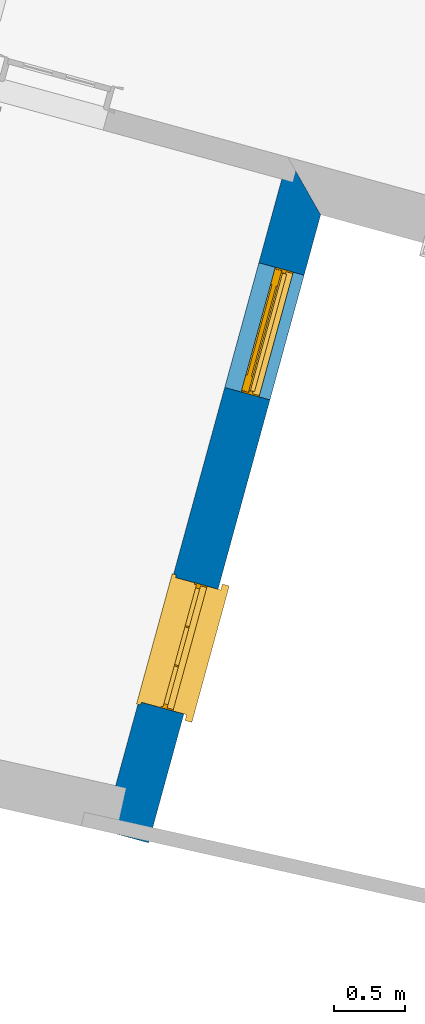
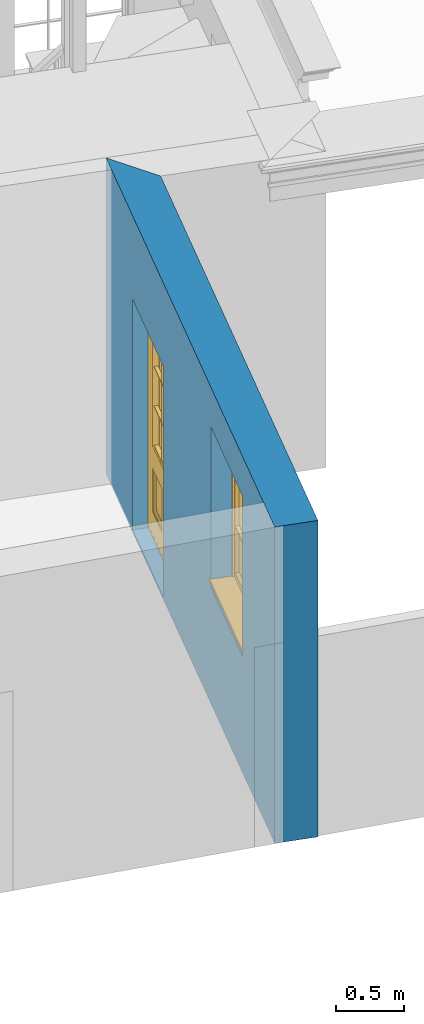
# One storey, part 2 of 7: 1 door, 1 wall, 1 window, 2 openings.
"""IFC4 building model written with IfcOpenShell, lengths in metres."""

import ifcopenshell
import ifcopenshell.guid

model = None  # the IFC model being written
_history = None  # IfcOwnerHistory: only IFC2X3 demands one
_inside = {}  # id of a spatial element -> (the spatial element, [elements in it])
_under = {}  # id of a project, library or spatial element -> (it, [spatial elements below it])
_declared = {}  # id of a project -> (the project, [libraries it declares])
_typed = {}  # id of a type object -> (the type object, [elements of that type])
_made_of = {}  # id of a material, layer set ... -> (it, [elements and type objects made of it])


def new_model(schema):
    """Start an empty IFC model of exactly this schema.

    Asked for "IFC4X3", IfcOpenShell would pick the latest addendum, in which some entities
    have other attributes; the version numbers below select the first issue.
    IFC2X3 requires an IfcOwnerHistory on every rooted entity: one is made here for all.
    """
    global model, _history
    if schema == "IFC4X3":
        model = ifcopenshell.file(schema_version=(4, 3, 0, 0))
    else:
        model = ifcopenshell.file(schema=schema)
    _inside.clear()
    _under.clear()
    _declared.clear()
    _typed.clear()
    _made_of.clear()
    _history = None
    if model.schema == "IFC2X3":
        org = make("IfcOrganization", Name="unknown")
        user = make(
            "IfcPersonAndOrganization",
            ThePerson=make("IfcPerson", FamilyName="unknown"),
            TheOrganization=org,
        )
        app = make(
            "IfcApplication",
            ApplicationDeveloper=org,
            Version="unknown",
            ApplicationFullName="unknown",
            ApplicationIdentifier="unknown",
        )
        _history = make(
            "IfcOwnerHistory",
            OwningUser=user,
            OwningApplication=app,
            ChangeAction="ADDED",
            CreationDate=0,
        )
    return model


def make(cls, **values):
    """One entity of the class cls with the attributes given. An attribute that is None is left unset."""
    return model.create_entity(
        cls, **{name: value for name, value in values.items() if value is not None}
    )


def rooted(cls, **values):
    """An entity with a GlobalId (a new one), such as an element, a storey or a relation."""
    return make(cls, GlobalId=ifcopenshell.guid.new(), OwnerHistory=_history, **values)


def si_unit(unit_type, name, prefix=None):
    """IfcSIUnit, for example si_unit("LENGTHUNIT", "METRE", prefix="MILLI")."""
    return make("IfcSIUnit", UnitType=unit_type, Prefix=prefix, Name=name)


def assignment(units):
    """IfcUnitAssignment: the units of a project."""
    return None if units is None else make("IfcUnitAssignment", Units=units)


def point(xyz):
    """IfcCartesianPoint."""
    return None if xyz is None else make("IfcCartesianPoint", Coordinates=xyz)


def direction(xyz):
    """IfcDirection."""
    return None if xyz is None else make("IfcDirection", DirectionRatios=xyz)


def frame(location, z_axis=None, x_axis=None):
    """IfcAxis2Placement3D, a coordinate frame: its origin and axes. An axis left out is left unset."""
    return make(
        "IfcAxis2Placement3D",
        Location=point(location),
        Axis=direction(z_axis),
        RefDirection=direction(x_axis),
    )


def origin():
    """The frame at (0, 0, 0) with its axes left unset."""
    return frame((0.0, 0.0, 0.0))


def origin_with_axes():
    """The frame at (0, 0, 0) with the z axis (0, 0, 1) and the x axis (1, 0, 0) written out."""
    return frame((0.0, 0.0, 0.0), z_axis=(0.0, 0.0, 1.0), x_axis=(1.0, 0.0, 0.0))


def place(relative_to, where):
    """IfcLocalPlacement: puts the frame where relative to a parent placement (None: the world)."""
    return make(
        "IfcLocalPlacement", PlacementRelTo=relative_to, RelativePlacement=where
    )


def context(
    kind, dimensions, precision=None, world=None, true_north=None, identifier=None
):
    """IfcGeometricRepresentationContext, for example the 3D "Model" context."""
    return make(
        "IfcGeometricRepresentationContext",
        ContextIdentifier=identifier,
        ContextType=kind,
        CoordinateSpaceDimension=dimensions,
        Precision=precision,
        WorldCoordinateSystem=world,
        TrueNorth=true_north,
    )


def subcontext(parent, identifier, kind, view, scale=None):
    """IfcGeometricRepresentationSubContext, for example "Body" below "Model"."""
    return make(
        "IfcGeometricRepresentationSubContext",
        ContextIdentifier=identifier,
        ContextType=kind,
        ParentContext=parent,
        TargetScale=scale,
        TargetView=view,
    )


def project(units=None, contexts=None):
    """IfcProject with its units and contexts."""
    return rooted(
        "IfcProject",
        Name="project",
        RepresentationContexts=contexts,
        UnitsInContext=assignment(units),
    )


def spatial(cls, under=None, at=None, **own):
    """A site, building, storey or space (cls), placed at a placement, below another one or the project."""
    s = rooted(cls, ObjectPlacement=at, **own)
    if under is not None:
        _under.setdefault(under.id(), (under, []))[1].append(s)
    return s


def polyline(points):
    """IfcPolyline through the points."""
    return make("IfcPolyline", Points=[point(p) for p in points])


def outline(outer, holes=None, kind="AREA"):
    """IfcArbitraryClosedProfileDef: a profile drawn as a closed curve; with holes, ...WithVoids."""
    if holes is None:
        return make("IfcArbitraryClosedProfileDef", ProfileType=kind, OuterCurve=outer)
    return make(
        "IfcArbitraryProfileDefWithVoids",
        ProfileType=kind,
        OuterCurve=outer,
        InnerCurves=holes,
    )


def extrude(swept, where, along, depth):
    """IfcExtrudedAreaSolid: the profile swept, set in the frame where, extruded along a direction by depth."""
    return make(
        "IfcExtrudedAreaSolid",
        SweptArea=swept,
        Position=where,
        ExtrudedDirection=direction(along),
        Depth=depth,
    )


def faces_of(points, faces, orient=None, outer=None):
    """IfcFace entities. A face is a list of loops; a loop is a list of indices into points, from 0.

    orient and outer hold one flag for each loop. By default every Orientation is true, the
    first loop of a face is its IfcFaceOuterBound and the others are IfcFaceBound.
    """
    made = []
    for i, loops in enumerate(faces):
        bounds = []
        for j, loop in enumerate(loops):
            is_outer = j == 0 if outer is None else outer[i][j]
            bounds.append(
                make(
                    "IfcFaceOuterBound" if is_outer else "IfcFaceBound",
                    Bound=make("IfcPolyLoop", Polygon=[points[k] for k in loop]),
                    Orientation=True if orient is None else orient[i][j],
                )
            )
        made.append(make("IfcFace", Bounds=bounds))
    return made


def faceted_brep(points, faces, orient=None, outer=None, voids=None):
    """IfcFacetedBrep: a solid bounded by flat faces; with voids (closed shells), ...WithVoids."""
    shared = [point(p) for p in points]
    hull = make("IfcClosedShell", CfsFaces=faces_of(shared, faces, orient, outer))
    if voids is None:
        return make("IfcFacetedBrep", Outer=hull)
    return make(
        "IfcFacetedBrepWithVoids",
        Outer=hull,
        Voids=[
            make(cls, CfsFaces=faces_of(shared, fs, o, b)) for cls, fs, o, b in voids
        ],
    )


def shape(context_of_items, identifier, shape_type, items):
    """IfcShapeRepresentation: the items that make up one representation, for example the "Body"."""
    return make(
        "IfcShapeRepresentation",
        ContextOfItems=context_of_items,
        RepresentationIdentifier=identifier,
        RepresentationType=shape_type,
        Items=items,
    )


def source(mapping_origin, context_of_items, identifier, shape_type, items):
    """IfcRepresentationMap: a shape defined once, which mapped items show again and again."""
    return make(
        "IfcRepresentationMap",
        MappingOrigin=mapping_origin,
        MappedRepresentation=shape(context_of_items, identifier, shape_type, items),
    )


def transform(
    local_origin,
    x_axis=None,
    y_axis=None,
    z_axis=None,
    scale=None,
    scale2=None,
    scale3=None,
    uniform=True,
):
    """IfcCartesianTransformationOperator3D, or its non-uniform kind. x_axis, y_axis, z_axis: its Axis1, 2, 3."""
    if uniform:
        return make(
            "IfcCartesianTransformationOperator3D",
            Axis1=direction(x_axis),
            Axis2=direction(y_axis),
            LocalOrigin=point(local_origin),
            Scale=scale,
            Axis3=direction(z_axis),
        )
    return make(
        "IfcCartesianTransformationOperator3DnonUniform",
        Axis1=direction(x_axis),
        Axis2=direction(y_axis),
        LocalOrigin=point(local_origin),
        Scale=scale,
        Axis3=direction(z_axis),
        Scale2=scale2,
        Scale3=scale3,
    )


def mapped(mapping_source, mapping_target):
    """IfcMappedItem: shows the shape of a source again, moved by a transform."""
    return make(
        "IfcMappedItem", MappingSource=mapping_source, MappingTarget=mapping_target
    )


def material(Name=None, Category=None):
    """IfcMaterial."""
    return make("IfcMaterial", Name=Name, Category=Category)


def layer(
    of_material, thickness, ventilated=None, Name=None, Category=None, Priority=None
):
    """IfcMaterialLayer: one layer of a wall or slab, of a material (None: an air gap)."""
    return make(
        "IfcMaterialLayer",
        Material=of_material,
        LayerThickness=thickness,
        IsVentilated=ventilated,
        Name=Name,
        Category=Category,
        Priority=Priority,
    )


def layer_set(layers, Name=None):
    """IfcMaterialLayerSet."""
    return make("IfcMaterialLayerSet", MaterialLayers=layers, LayerSetName=Name)


def layer_usage(for_layer_set, set_direction, sense, offset, extent=None):
    """IfcMaterialLayerSetUsage: how a layer set lies in its element."""
    return make(
        "IfcMaterialLayerSetUsage",
        ForLayerSet=for_layer_set,
        LayerSetDirection=set_direction,
        DirectionSense=sense,
        OffsetFromReferenceLine=offset,
        ReferenceExtent=extent,
    )


def made_of(thing, what):
    """Note that an element or type object is made of a material, layer set ...; save() writes the relation."""
    if what is not None:
        _made_of.setdefault(what.id(), (what, []))[1].append(thing)
    return thing


def type_object(cls, material=None, **own):
    """A type object (cls), such as IfcWallType, which elements share."""
    return made_of(rooted(cls, **own), material)


def type_shapes(of_type, sources):
    """Give a type object the sources (RepresentationMaps) that its elements show as mapped items."""
    of_type.RepresentationMaps = sources


def element(
    cls,
    number,
    at=None,
    inside=None,
    cuts=None,
    type_object=None,
    material=None,
    context=None,
    identifier="Body",
    shape_type=None,
    held_by="IfcProductDefinitionShape",
    body=None,
    shapes=None,
    **own,
):
    """One element of the class cls, such as IfcWall. Its Tag is "e" and its number.

    at: its placement. inside: the storey or other place that contains it. cuts: it is an
    opening in that element (IfcRelVoidsElement). A single representation is given by context,
    identifier, shape_type and body (its items); several are given by shapes. held_by: the class
    of the entity that holds the representations. save() writes the other relations.
    """
    e = rooted(cls, Tag="e%d" % number, ObjectPlacement=at, **own)
    if body is not None:
        shapes = [shape(context, identifier, shape_type, body)]
    if shapes is not None:
        e.Representation = make(held_by, Representations=shapes)
    if inside is not None:
        _inside.setdefault(inside.id(), (inside, []))[1].append(e)
    if cuts is not None:
        rooted(
            "IfcRelVoidsElement", RelatingBuildingElement=cuts, RelatedOpeningElement=e
        )
    if type_object is not None:
        _typed.setdefault(type_object.id(), (type_object, []))[1].append(e)
    return made_of(e, material)


def fill(opening, filler):
    """IfcRelFillsElement: the door or window that sits in an opening."""
    return rooted(
        "IfcRelFillsElement",
        RelatingOpeningElement=opening,
        RelatedBuildingElement=filler,
    )


def aggregate(whole, parts):
    """IfcRelAggregates: a whole, such as a stair, and the parts it consists of."""
    return rooted("IfcRelAggregates", RelatingObject=whole, RelatedObjects=parts)


def save(model, path):
    """Write the relations noted so far, then the file.

    IfcRelAggregates (storeys below a building ...), IfcRelContainedInSpatialStructure (elements
    in a storey), IfcRelDefinesByType, IfcRelAssociatesMaterial and IfcRelDeclares: one each for
    every whole, place, type object, material and project.
    """
    for whole, parts in _under.values():
        aggregate(whole, parts)
    for where, things in _inside.values():
        rooted(
            "IfcRelContainedInSpatialStructure",
            RelatedElements=things,
            RelatingStructure=where,
        )
    for kind, things in _typed.values():
        rooted("IfcRelDefinesByType", RelatedObjects=things, RelatingType=kind)
    for what, things in _made_of.values():
        rooted("IfcRelAssociatesMaterial", RelatedObjects=things, RelatingMaterial=what)
    for by, libraries in _declared.values():
        rooted("IfcRelDeclares", RelatingContext=by, RelatedDefinitions=libraries)
    model.write(path)


model = new_model("IFC4")

# Units and contexts
model_context = context("Model", 3, world=origin_with_axes())
body_context = subcontext(model_context, "Body", "Model", "MODEL_VIEW")
ifc_project = project(units=[si_unit("PLANEANGLEUNIT", "RADIAN"), si_unit("MASSUNIT", "GRAM", prefix="KILO"), si_unit("FORCEUNIT", "NEWTON", prefix="KILO"), si_unit("LENGTHUNIT", "METRE"), si_unit("AREAUNIT", "SQUARE_METRE"), si_unit("VOLUMEUNIT", "CUBIC_METRE")], contexts=[model_context, model_context])

# Sites, building, storey
site_1_placement = place(None, origin_with_axes())
site_1 = spatial("IfcSite", under=ifc_project, at=site_1_placement, Name="Tamar")
site_2_placement = place(site_1_placement, origin_with_axes())
site_2 = spatial("IfcSite", under=site_1, at=site_2_placement, Name="Site plot-29", CompositionType="ELEMENT")
building_placement = place(None, origin_with_axes())
building = spatial("IfcBuilding", under=site_2, at=building_placement, Name="Building plot-29", CompositionType="ELEMENT")
storey_placement = place(None, frame((0.0, 0.0, 25.0), z_axis=(0.0, 0.0, 1.0), x_axis=(1.0, 0.0, 0.0)))
storey = spatial("IfcBuildingStorey", under=building, at=storey_placement, Name="plot-29 0", CompositionType="ELEMENT", Elevation=25.0)

# Wall, openings, door, window
ifc_material = material(Name="Masonry")
ifc_layer = layer(ifc_material, 0.33, ventilated=False)
ifc_layer_set = layer_set([ifc_layer], Name="exterior_0.08_0.25")
ifc_layer_usage = layer_usage(ifc_layer_set, "AXIS2", "POSITIVE", -0.25)
wall_type = type_object("IfcWallType", Name="exterior_0.08_0.25", PredefinedType="SOLIDWALL", material=ifc_layer_set)
wall_placement = place(storey_placement, frame((274.630680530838, 257.489366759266, 0.0), z_axis=(0.0, 0.0, 1.0), x_axis=(0.264255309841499, 0.964452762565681, 0.0)))
wall = element("IfcWall", 1, at=wall_placement, inside=storey, type_object=wall_type, material=ifc_layer_usage, Name="exterior", context=body_context, shape_type="SweptSolid", body=[
    extrude(outline(polyline([(-0.250000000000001, 0.0800000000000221), (-0.250000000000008, -0.250000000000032), (4.33079801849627, -0.250000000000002), (4.66079801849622, 0.0800000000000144), (-0.250000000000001, 0.0800000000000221)])), origin_with_axes(), (0.0, 0.0, 1.0), 2.85),
])
opening_1_placement = place(wall_placement, frame((0.690199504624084, 0.0, 1.05)))
opening_1 = element("IfcOpeningElement", 2, at=opening_1_placement, cuts=wall, Name="My Opening", ObjectType="Opening", context=body_context, shape_type="SweptSolid", body=[
    extrude(outline(polyline([(0.0, -0.270000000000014), (0.909999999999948, -0.270000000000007), (0.909999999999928, 1.1), (-2.03170813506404e-14, 1.09999999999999), (0.0, -0.270000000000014)])), origin_with_axes(), (0.0, 0.0, 1.0), 1.445),
])
opening_2_placement = place(wall_placement, frame((2.98059851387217, 0.0, 0.0199999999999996)))
opening_2 = element("IfcOpeningElement", 3, at=opening_2_placement, cuts=wall, Name="My Opening", ObjectType="Opening", context=body_context, shape_type="SweptSolid", body=[
    extrude(outline(polyline([(0.0, -0.270000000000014), (0.909999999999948, -0.270000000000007), (0.909999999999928, 1.1), (-1.99840144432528e-14, 1.09999999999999), (0.0, -0.270000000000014)])), origin_with_axes(), (0.0, 0.0, 1.0), 2.08),
])
door_type = type_object("IfcDoorType", Name="door_panelled", OperationType="SINGLE_SWING_LEFT", PredefinedType="NOTDEFINED")
shared_shape_1 = source(origin(), body_context, "Body", "Brep", [
    faceted_brep([(0.545, 0.195, 0.265), (0.745, 0.195, 0.265), (0.745, 0.2, 0.265), (0.545, 0.2, 0.265), (0.745, 0.2, 0.58), (0.545, 0.2, 0.58), (0.545, 0.195, 0.58), (0.515, 0.19, 0.235), (0.775, 0.19, 0.235), (0.745, 0.195, 0.58), (0.515, 0.19, 0.61), (0.515, 0.185, 0.235), (0.775, 0.185, 0.235), (0.775, 0.19, 0.61), (0.515, 0.185, 0.61), (0.785, 0.185, 0.225), (0.505, 0.185, 0.225), (0.775, 0.185, 0.61), (0.505, 0.185, 0.62), (0.785, 0.185, 0.62), (0.505, 0.18, 0.225), (0.785, 0.18, 0.225), (0.505, 0.18, 0.62), (0.785, 0.18, 0.62), (0.883, 0.18, 0.075), (0.898, 0.18, 0.075), (0.405, 0.18, 0.62), (0.405, 0.18, 0.225), (0.027, 0.18, 0.075), (0.785, 0.18, 0.82), (0.125, 0.18, 0.82), (0.405, 0.185, 0.62), (0.405, 0.185, 0.225), (0.898, 0.18, 2.068), (0.027, 0.17, 0.075), (0.883, 0.17, 0.075), (0.125, 0.18, 0.225), (0.012, 0.18, 0.075), (0.785, 0.19, 0.82), (0.125, 0.19, 0.82), (0.125, 0.18, 0.62), (0.125, 0.185, 0.62), (0.395, 0.185, 0.61), (0.395, 0.185, 0.235), (0.125, 0.185, 0.225), (0.785, 0.18, 1.895), (0.027, 0.14, 0.045), (0.883, 0.14, 0.045), (0.558333, 0.19, 0.83), (0.351667, 0.19, 0.83), (0.125, 0.18, 1.895), (0.125, 0.19, 1.895), (0.785, 0.19, 1.895), (0.012, 0.18, 2.068), (0.135, 0.185, 0.61), (0.395, 0.19, 0.61), (0.395, 0.19, 0.235), (0.135, 0.185, 0.235), (0.027, 0.14, 0.027), (0.883, 0.14, 0.027), (0.568333, 0.19, 0.83), (0.558333, 0.22, 0.83), (0.351667, 0.22, 0.83), (0.341667, 0.19, 0.83), (0.135, 0.19, 1.185), (0.135, 0.19, 1.53), (0.775, 0.19, 1.53), (0.775, 0.19, 1.185), (0.135, 0.19, 0.61), (0.365, 0.195, 0.58), (0.365, 0.195, 0.265), (0.135, 0.19, 0.235), (0.568333, 0.19, 1.175), (0.558333, 0.19, 1.175), (0.775, 0.19, 0.83), (0.558333, 0.22, 1.175), (0.785, 0.22, 0.82), (0.125, 0.22, 0.82), (0.351667, 0.22, 1.175), (0.351667, 0.19, 1.175), (0.341667, 0.19, 1.175), (0.135, 0.19, 0.83), (0.135, 0.19, 1.175), (0.135, 0.22, 1.185), (0.135, 0.22, 1.53), (0.135, 0.19, 1.54), (0.351667, 0.19, 1.885), (0.558333, 0.19, 1.885), (0.775, 0.22, 1.53), (0.775, 0.22, 1.185), (0.775, 0.19, 1.175), (0.775, 0.19, 1.54), (0.165, 0.195, 0.58), (0.365, 0.2, 0.58), (0.365, 0.2, 0.265), (0.165, 0.195, 0.265), (0.568333, 0.22, 0.83), (0.568333, 0.22, 1.175), (0.568333, 0.19, 1.185), (0.558333, 0.19, 1.185), (0.775, 0.22, 0.83), (0.785, 0.23, 0.82), (0.125, 0.23, 0.82), (0.341667, 0.22, 0.83), (0.341667, 0.22, 1.175), (0.351667, 0.19, 1.185), (0.341667, 0.19, 1.185), (0.135, 0.22, 0.83), (0.341667, 0.22, 1.185), (0.125, 0.22, 1.895), (0.341667, 0.22, 1.53), (0.341667, 0.19, 1.53), (0.135, 0.19, 1.885), (0.341667, 0.19, 1.54), (0.341667, 0.19, 1.885), (0.558333, 0.22, 1.885), (0.351667, 0.22, 1.885), (0.568333, 0.19, 1.885), (0.785, 0.22, 1.895), (0.568333, 0.22, 1.185), (0.568333, 0.19, 1.53), (0.568333, 0.22, 1.53), (0.568333, 0.19, 1.54), (0.775, 0.19, 1.885), (0.165, 0.2, 0.58), (0.165, 0.2, 0.265), (0.775, 0.22, 1.175), (0.558333, 0.19, 1.53), (0.351667, 0.22, 1.185), (0.558333, 0.22, 1.185), (0.505, 0.23, 0.62), (0.405, 0.23, 0.62), (0.125, 0.23, 1.895), (0.785, 0.23, 1.895), (0.351667, 0.19, 1.53), (0.135, 0.22, 1.175), (0.135, 0.22, 1.54), (0.341667, 0.22, 1.54), (0.135, 0.22, 1.885), (0.351667, 0.19, 1.54), (0.558333, 0.22, 1.54), (0.558333, 0.19, 1.54), (0.351667, 0.22, 1.54), (0.775, 0.22, 1.54), (0.568333, 0.22, 1.54), (0.775, 0.22, 1.885), (0.558333, 0.22, 1.53), (0.405, 0.23, 0.225), (0.505, 0.23, 0.225), (0.125, 0.23, 0.62), (0.785, 0.23, 0.62), (0.012, 0.23, 2.068), (0.898, 0.23, 2.068), (0.351667, 0.22, 1.53), (0.341667, 0.22, 1.885), (0.568333, 0.22, 1.885), (0.405, 0.225, 0.225), (0.405, 0.225, 0.62), (0.505, 0.225, 0.62), (0.505, 0.225, 0.225), (0.898, 0.23, 0.027), (0.012, 0.23, 0.027), (0.125, 0.225, 0.62), (0.785, 0.225, 0.62), (0.395, 0.225, 0.235), (0.395, 0.225, 0.61), (0.125, 0.23, 0.225), (0.125, 0.225, 0.225), (0.515, 0.225, 0.61), (0.515, 0.225, 0.235), (0.785, 0.23, 0.225), (0.785, 0.225, 0.225), (0.135, 0.225, 0.61), (0.775, 0.225, 0.61), (0.135, 0.225, 0.235), (0.395, 0.22, 0.235), (0.395, 0.22, 0.61), (0.515, 0.22, 0.61), (0.515, 0.22, 0.235), (0.775, 0.225, 0.235), (0.135, 0.22, 0.61), (0.775, 0.22, 0.61), (0.135, 0.22, 0.235), (0.365, 0.215, 0.265), (0.365, 0.215, 0.58), (0.545, 0.215, 0.58), (0.545, 0.215, 0.265), (0.775, 0.22, 0.235), (0.165, 0.215, 0.58), (0.745, 0.215, 0.58), (0.165, 0.215, 0.265), (0.365, 0.21, 0.58), (0.365, 0.21, 0.265), (0.545, 0.21, 0.58), (0.545, 0.21, 0.265), (0.745, 0.215, 0.265), (0.165, 0.21, 0.58), (0.745, 0.21, 0.58), (0.165, 0.21, 0.265), (0.745, 0.21, 0.265), (0.885, 0.178, 0.025), (0.025, 0.178, 0.025), (0.025, 0.15, 0.025), (0.885, 0.15, 0.025), (0.9, 0.23, 0.025), (0.01, 0.23, 0.025), (0.9, 0.178, 0.025), (0.91, 0.23, 0.0), (0.0, 0.23, 0.0), (0.01, 0.178, 0.025), (0.9, 0.178, 2.07), (0.9, 0.23, 2.07), (0.885, 0.178, 2.055), (0.91, 0.23, 2.08), (0.01, 0.23, 2.07), (0.0, 0.23, 2.08), (0.01, 0.178, 2.07), (0.025, 0.178, 2.055), (0.0, 0.1, 2.08), (0.91, 0.1, 2.08), (0.01, 0.1, 2.07), (0.9, 0.1, 2.07), (0.01, 0.15, 2.07), (0.9, 0.15, 2.07), (0.0, 0.1, 0.0), (0.91, 0.1, 0.0), (0.01, 0.1, 0.025), (0.9, 0.1, 0.025), (0.01, 0.15, 0.025), (0.025, 0.15, 2.055), (0.9, 0.15, 0.025), (0.885, 0.15, 2.055), (0.898, 0.18, 0.027), (0.012, 0.18, 0.027), (0.883, 0.18, 0.027), (0.027, 0.18, 0.027)], [[[0, 1, 2, 3]], [[2, 4, 5, 3]], [[0, 3, 5, 6]], [[1, 0, 7, 8]], [[9, 4, 2, 1]], [[9, 6, 5, 4]], [[0, 6, 10, 7]], [[8, 7, 11, 12]], [[8, 13, 9, 1]], [[13, 10, 6, 9]], [[7, 10, 14, 11]], [[15, 12, 11, 16]], [[12, 17, 13, 8]], [[17, 14, 10, 13]], [[18, 16, 11, 14]], [[15, 19, 17, 12]], [[15, 16, 20, 21]], [[14, 17, 19, 18]], [[16, 18, 22, 20]], [[21, 23, 19, 15]], [[24, 25, 21, 20]], [[23, 22, 18, 19]], [[20, 22, 26, 27]], [[23, 21, 25]], [[28, 24, 20, 27]], [[22, 23, 29]], [[29, 30, 26, 22]], [[27, 26, 31, 32]], [[23, 25, 33, 29]], [[34, 35, 24, 28]], [[28, 27, 36, 37]], [[38, 39, 30, 29]], [[26, 30, 40]], [[26, 40, 41, 31]], [[42, 43, 32, 31]], [[32, 44, 36, 27]], [[33, 45, 29]], [[46, 47, 35, 34]], [[36, 40, 37]], [[39, 38, 48, 49]], [[50, 30, 39, 51]], [[29, 45, 52, 38]], [[53, 37, 40, 30]], [[44, 41, 40, 36]], [[31, 41, 54, 42]], [[43, 42, 55, 56]], [[57, 44, 32, 43]], [[50, 45, 33, 53]], [[47, 46, 58, 59]], [[60, 48, 38]], [[49, 48, 61, 62]], [[49, 63, 39]], [[50, 53, 30]], [[51, 39, 64, 65]], [[45, 50, 51, 52]], [[66, 67, 38, 52]], [[57, 54, 41, 44]], [[42, 54, 68, 55]], [[56, 55, 69, 70]], [[56, 71, 57, 43]], [[60, 72, 73, 48]], [[60, 38, 74]], [[48, 73, 75, 61]], [[76, 77, 62, 61]], [[62, 78, 79, 49]], [[49, 79, 80, 63]], [[63, 81, 39]], [[82, 64, 39]], [[65, 64, 83, 84]], [[85, 51, 65]], [[52, 51, 86, 87]], [[88, 89, 67, 66]], [[90, 38, 67]], [[91, 66, 52]], [[71, 68, 54, 57]], [[55, 68, 92, 69]], [[69, 93, 94, 70]], [[70, 95, 71, 56]], [[96, 97, 72, 60]], [[73, 72, 98, 99]], [[74, 38, 90]], [[100, 96, 60, 74]], [[75, 73, 79, 78]], [[61, 75, 97, 96]], [[101, 102, 77, 76]], [[77, 103, 62]], [[96, 76, 61]], [[103, 104, 78, 62]], [[80, 79, 105, 106]], [[63, 80, 104, 103]], [[81, 63, 103, 107]], [[81, 82, 39]], [[106, 64, 82, 80]], [[106, 108, 83, 64]], [[84, 83, 77, 109]], [[110, 111, 65, 84]], [[112, 51, 85]], [[113, 85, 65, 111]], [[114, 86, 51]], [[115, 87, 86, 116]], [[117, 52, 87]], [[118, 76, 89, 88]], [[119, 98, 67, 89]], [[120, 121, 88, 66]], [[67, 98, 72, 90]], [[91, 122, 120, 66]], [[91, 52, 123]], [[95, 92, 68, 71]], [[69, 92, 124, 93]], [[94, 93, 124, 125]], [[94, 125, 95, 70]], [[72, 97, 126, 90]], [[127, 99, 98, 120]], [[99, 105, 79, 73]], [[74, 90, 126, 100]], [[96, 100, 76]], [[128, 129, 75, 78]], [[97, 75, 129, 119]], [[130, 131, 102, 101]], [[109, 77, 102, 132]], [[133, 101, 76, 118]], [[77, 107, 103]], [[78, 104, 108, 128]], [[111, 106, 105, 134]], [[104, 80, 82, 135]], [[107, 135, 82, 81]], [[110, 108, 106, 111]], [[104, 135, 83, 108]], [[83, 135, 77]], [[136, 84, 109]], [[110, 84, 136, 137]], [[114, 51, 112]], [[85, 136, 138, 112]], [[113, 137, 136, 85]], [[111, 134, 139, 113]], [[86, 114, 113, 139]], [[140, 141, 87, 115]], [[139, 142, 116, 86]], [[109, 118, 115, 116]], [[117, 123, 52]], [[117, 87, 141, 122]], [[126, 89, 76]], [[143, 118, 88]], [[120, 98, 119, 121]], [[119, 89, 126, 97]], [[144, 143, 88, 121]], [[144, 122, 91, 143]], [[127, 120, 122, 141]], [[143, 91, 123, 145]], [[124, 92, 95, 125]], [[146, 129, 99, 127]], [[99, 129, 128, 105]], [[100, 126, 76]], [[121, 119, 129, 146]], [[147, 131, 130, 148]], [[131, 149, 102]], [[130, 101, 150]], [[102, 151, 132]], [[118, 109, 132, 133]], [[101, 133, 152]], [[107, 77, 135]], [[153, 128, 108, 110]], [[134, 105, 128, 153]], [[109, 138, 136]], [[153, 110, 137, 142]], [[154, 114, 112, 138]], [[137, 113, 114, 154]], [[141, 139, 134, 127]], [[141, 140, 142, 139]], [[144, 140, 115, 155]], [[142, 137, 154, 116]], [[155, 115, 118]], [[116, 154, 109]], [[117, 155, 145, 123]], [[122, 144, 155, 117]], [[143, 145, 118]], [[121, 146, 140, 144]], [[146, 127, 134, 153]], [[156, 157, 131, 147]], [[148, 130, 158, 159]], [[148, 160, 161, 147]], [[157, 162, 149, 131]], [[161, 151, 102, 149]], [[101, 152, 160, 150]], [[163, 158, 130, 150]], [[151, 152, 133, 132]], [[154, 138, 109]], [[142, 140, 146, 153]], [[145, 155, 118]], [[157, 156, 164, 165]], [[147, 166, 167, 156]], [[168, 169, 159, 158]], [[170, 148, 159, 171]], [[148, 170, 160]], [[166, 147, 161]], [[172, 162, 157, 165]], [[166, 149, 162, 167]], [[166, 161, 149]], [[150, 160, 170]], [[163, 173, 168, 158]], [[171, 163, 150, 170]], [[174, 164, 156, 167]], [[175, 176, 165, 164]], [[169, 168, 177, 178]], [[171, 159, 169, 179]], [[167, 162, 172, 174]], [[176, 180, 172, 165]], [[179, 173, 163, 171]], [[181, 177, 168, 173]], [[164, 174, 182, 175]], [[183, 184, 176, 175]], [[178, 177, 185, 186]], [[179, 169, 178, 187]], [[174, 172, 180, 182]], [[184, 188, 180, 176]], [[187, 181, 173, 179]], [[189, 185, 177, 181]], [[175, 182, 190, 183]], [[191, 184, 183, 192]], [[185, 193, 194, 186]], [[187, 178, 186, 195]], [[182, 180, 188, 190]], [[191, 196, 188, 184]], [[195, 189, 181, 187]], [[197, 193, 185, 189]], [[183, 190, 198, 192]], [[198, 196, 191, 192]], [[194, 193, 197, 199]], [[195, 186, 194, 199]], [[188, 196, 198, 190]], [[197, 189, 195, 199]], [[200, 201, 202, 203]], [[201, 200, 204, 205]], [[206, 204, 200]], [[204, 207, 208, 205]], [[209, 201, 205]], [[210, 211, 204, 206]], [[206, 200, 212, 210]], [[211, 213, 207, 204]], [[214, 205, 208, 215]], [[216, 217, 201, 209]], [[205, 214, 216, 209]], [[216, 214, 211, 210]], [[210, 212, 217, 216]], [[214, 215, 213, 211]], [[218, 219, 213, 215]], [[219, 218, 220, 221]], [[221, 220, 222, 223]], [[215, 208, 224, 218]], [[225, 224, 208, 207]], [[224, 226, 220, 218]], [[224, 225, 227, 226]], [[219, 225, 207, 213]], [[228, 222, 220, 226]], [[219, 221, 227, 225]], [[226, 227, 203, 202]], [[202, 229, 222, 228]], [[228, 226, 202]], [[227, 221, 223, 230]], [[230, 203, 227]], [[217, 229, 202, 201]], [[231, 223, 222, 229]], [[230, 223, 231, 203]], [[231, 229, 217, 212]], [[212, 200, 203, 231]], [[33, 152, 151, 53]], [[25, 160, 152, 33]], [[161, 37, 53, 151]], [[232, 160, 25]], [[161, 233, 37]], [[160, 232, 234]], [[24, 234, 232, 25]], [[233, 161, 235]], [[37, 233, 235, 28]], [[161, 160, 234, 235]], [[35, 47, 234, 24]], [[28, 235, 46, 34]], [[58, 235, 234, 59]], [[59, 234, 47]], [[58, 46, 235]]]),
])
type_shapes(door_type, [shared_shape_1])
door_placement = place(storey_placement, frame((275.678721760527, 260.292664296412, 0.0199999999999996), z_axis=(0.0, 0.0, 1.0), x_axis=(0.240472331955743, 0.877652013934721, 0.0)))
door = element("IfcDoor", 4, at=door_placement, inside=storey, type_object=door_type, Name="kitchen outside door", OverallHeight=2.08, OverallWidth=0.91, context=body_context, shape_type="MappedRepresentation", body=[
    mapped(shared_shape_1, transform((0.0, 0.0, 0.0), scale=1.0)),
])
fill(opening_2, door)
window_type = type_object("IfcWindowType", Name="sash_shorter", PartitioningType="DOUBLE_PANEL_HORIZONTAL", PredefinedType="NOTDEFINED")
shared_shape_2 = source(origin(), body_context, "Body", "Brep", [
    faceted_brep([(0.876875, 0.145, 0.999097), (0.876875, 0.145, 1.411875), (0.9, 0.145, 1.435), (0.033125, 0.145, 1.411875), (0.033125, 0.145, 0.999097), (0.01, 0.145, 1.435), (0.033125, 0.115, 1.411875), (0.01, 0.115, 1.435), (0.033125, 0.115, 0.999097), (0.876875, 0.115, 1.411875), (0.876875, 0.115, 0.999097), (0.9, 0.115, 1.435), (0.033125, 0.145, 0.960972), (0.01, 0.145, 0.960972), (0.033125, 0.145, 0.548195), (0.876875, 0.145, 0.960972), (0.876875, 0.145, 0.548195), (0.9, 0.145, 0.960972), (0.876875, 0.145, 0.538195), (0.876875, 0.145, 0.125417), (0.9, 0.145, 0.077167), (0.033125, 0.145, 0.125417), (0.033125, 0.145, 0.538195), (0.01, 0.145, 0.077167), (0.9, 0.115, 0.960972), (0.01, 0.115, 0.960972), (-0.0425, 0.0, 0.01), (-0.0425, -0.05, 0.001667), (0.0, 0.0, 0.01), (0.9525, 0.0, 0.01), (0.91, 0.0, 0.01), (0.9525, -0.05, 0.001667), (-0.02, 0.33, 0.077167), (0.0, 0.33, 0.077167), (-0.02, 0.36, 0.077167), (0.0, 0.19, 0.077167), (0.01, 0.19, 0.077167), (0.91, 0.19, 0.077167), (0.91, 0.33, 0.077167), (0.9, 0.19, 0.077167), (0.93, 0.33, 0.077167), (0.93, 0.36, 0.077167), (0.01, 0.145, 0.999097), (0.01, 0.175, 0.999097), (0.9, 0.145, 0.999097), (0.9, 0.175, 0.999097), (0.876875, 0.175, 0.125417), (0.876875, 0.175, 0.538195), (0.9, 0.175, 0.077167), (0.876875, 0.175, 0.548195), (0.876875, 0.175, 0.960972), (0.033125, 0.175, 0.125417), (0.01, 0.175, 0.077167), (0.033125, 0.175, 0.538195), (0.033125, 0.175, 0.960972), (0.033125, 0.175, 0.548195), (-0.02, 0.33, 0.052167), (-0.02, 0.36, 0.052167), (0.93, 0.36, 0.052167), (0.93, 0.33, 0.052167), (0.91, 0.33, 0.052167), (0.0, 0.33, 0.052167), (0.91, 0.1, 0.026667), (0.0, 0.1, 0.026667), (-0.0425, -0.05, -0.123333), (0.9525, -0.05, -0.123333), (-0.0425, 0.0, -0.123333), (0.9525, 0.0, -0.123333), (0.01, 0.19, 1.435), (0.9, 0.19, 1.435), (0.0, 0.19, 1.445), (0.91, 0.19, 1.445), (0.01, 0.1, 0.077167), (0.9, 0.1, 0.077167), (0.592292, 0.145, 0.125417), (0.592292, 0.175, 0.125417), (0.317708, 0.175, 0.125417), (0.317708, 0.145, 0.125417), (0.592292, 0.145, 0.548195), (0.317708, 0.145, 0.548195), (0.317708, 0.145, 0.538195), (0.592292, 0.145, 0.538195), (0.592292, 0.175, 0.548195), (0.317708, 0.175, 0.548195), (0.602292, 0.175, 0.548195), (0.602292, 0.145, 0.548195), (0.317708, 0.175, 0.538195), (0.307708, 0.175, 0.125417), (0.307708, 0.175, 0.538195), (0.602292, 0.175, 0.538195), (0.602292, 0.175, 0.125417), (0.592292, 0.175, 0.538195), (0.307708, 0.175, 0.548195), (0.317708, 0.175, 0.960972), (0.307708, 0.175, 0.960972), (0.602292, 0.175, 0.960972), (0.592292, 0.175, 0.960972), (0.307708, 0.145, 0.538195), (0.307708, 0.145, 0.125417), (0.307708, 0.145, 0.548195), (0.307708, 0.145, 0.960972), (0.592292, 0.145, 0.960972), (0.317708, 0.145, 0.960972), (0.602292, 0.145, 0.960972), (0.602292, 0.145, 0.538195), (0.602292, 0.145, 0.125417), (0.317708, 0.115, 1.411875), (0.307708, 0.115, 1.411875), (0.307708, 0.115, 0.999097), (0.317708, 0.115, 0.999097), (0.602292, 0.115, 1.411875), (0.592292, 0.115, 1.411875), (0.592292, 0.115, 0.999097), (0.602292, 0.115, 0.999097), (0.317708, 0.145, 0.999097), (0.307708, 0.145, 0.999097), (0.307708, 0.145, 1.411875), (0.317708, 0.145, 1.411875), (0.602292, 0.145, 0.999097), (0.592292, 0.145, 0.999097), (0.592292, 0.145, 1.411875), (0.602292, 0.145, 1.411875), (0.91, 0.1, 1.445), (0.9, 0.1, 1.435), (0.01, 0.1, 1.435), (0.0, 0.1, 1.445), (0.91, 0.0, 0.0), (0.0, 0.0, 0.0), (0.91, 0.33, 0.0), (0.0, 0.33, 0.0)], [[[0, 1, 2]], [[3, 4, 5]], [[6, 7, 8]], [[9, 10, 11]], [[12, 13, 14]], [[15, 16, 17]], [[18, 19, 20]], [[21, 22, 23]], [[24, 15, 17]], [[13, 12, 25]], [[26, 27, 28]], [[29, 30, 31]], [[32, 33, 34]], [[35, 36, 33]], [[37, 38, 39]], [[40, 41, 38]], [[42, 4, 43]], [[44, 45, 0]], [[46, 47, 48]], [[49, 50, 45]], [[51, 52, 53]], [[54, 55, 43]], [[38, 33, 36, 39]], [[41, 34, 33, 38]], [[56, 32, 34, 57]], [[57, 34, 41, 58]], [[58, 41, 40, 59]], [[57, 58, 60, 61]], [[52, 48, 39, 36]], [[62, 63, 28, 30]], [[27, 31, 30, 28]], [[27, 64, 65, 31]], [[66, 67, 65, 64]], [[2, 5, 68, 69]], [[68, 70, 71, 69]], [[20, 23, 72, 73]], [[73, 72, 63, 62]], [[74, 75, 76, 77]], [[78, 79, 80, 81]], [[78, 82, 83, 79]], [[16, 49, 84, 85]], [[86, 76, 87, 88]], [[89, 90, 75, 91]], [[92, 88, 53, 55]], [[82, 91, 86, 83]], [[93, 83, 92, 94]], [[95, 84, 82, 96]], [[89, 84, 49, 47]], [[97, 88, 87, 98]], [[22, 53, 88, 97]], [[81, 91, 75, 74]], [[80, 86, 91, 81]], [[77, 76, 86, 80]], [[99, 92, 55, 14]], [[100, 94, 92, 99]], [[101, 96, 82, 78]], [[79, 83, 93, 102]], [[85, 84, 95, 103]], [[104, 89, 47, 18]], [[105, 90, 89, 104]], [[104, 18, 16, 85]], [[80, 97, 98, 77]], [[104, 81, 74, 105]], [[103, 101, 78, 85]], [[99, 14, 22, 97]], [[102, 100, 99, 79]], [[106, 107, 108, 109]], [[110, 111, 112, 113]], [[114, 115, 116, 117]], [[118, 119, 120, 121]], [[107, 116, 115, 108]], [[111, 120, 119, 112]], [[109, 114, 117, 106]], [[113, 118, 121, 110]], [[85, 78, 81, 104]], [[84, 89, 91, 82]], [[83, 86, 88, 92]], [[79, 99, 97, 80]], [[109, 112, 119, 114]], [[102, 93, 96, 101]], [[106, 117, 120, 111]], [[98, 87, 51, 21]], [[6, 3, 116, 107]], [[110, 121, 1, 9]], [[19, 46, 90, 105]], [[26, 66, 64, 27]], [[29, 31, 65, 67]], [[25, 24, 112, 109]], [[11, 7, 106, 111]], [[75, 48, 52, 76]], [[43, 45, 96, 93]], [[45, 43, 114, 119]], [[5, 2, 120, 117]], [[24, 25, 102, 101]], [[42, 5, 4]], [[2, 44, 0]], [[49, 45, 48, 47]], [[52, 43, 55, 53]], [[14, 13, 23, 22]], [[20, 17, 16, 18]], [[24, 11, 10]], [[25, 8, 7]], [[8, 4, 3, 6]], [[9, 1, 0, 10]], [[15, 50, 49, 16]], [[18, 47, 46, 19]], [[21, 51, 53, 22]], [[14, 55, 54, 12]], [[44, 2, 69, 45]], [[68, 5, 42, 43]], [[36, 35, 70, 68]], [[39, 69, 71, 37]], [[62, 122, 123, 73]], [[63, 72, 124, 125]], [[8, 108, 115, 4]], [[113, 10, 0, 118]], [[94, 100, 12, 54]], [[17, 20, 73, 24]], [[72, 23, 13, 25]], [[52, 36, 68, 43]], [[69, 39, 48, 45]], [[11, 24, 73, 123]], [[7, 124, 72, 25]], [[23, 77, 98]], [[98, 21, 23]], [[105, 74, 20]], [[20, 19, 105]], [[20, 74, 77, 23]], [[113, 112, 24]], [[24, 10, 113]], [[25, 109, 108]], [[108, 8, 25]], [[110, 9, 11]], [[11, 111, 110]], [[7, 6, 107]], [[107, 106, 7]], [[5, 117, 116]], [[116, 3, 5]], [[121, 120, 2]], [[2, 1, 121]], [[11, 123, 124, 7]], [[122, 125, 124, 123]], [[43, 93, 94]], [[94, 54, 43]], [[96, 45, 95]], [[50, 95, 45]], [[15, 103, 95, 50]], [[48, 75, 90]], [[90, 46, 48]], [[87, 76, 52]], [[52, 51, 87]], [[103, 15, 24]], [[24, 101, 103]], [[100, 102, 25]], [[25, 12, 100]], [[115, 114, 43]], [[43, 4, 115]], [[118, 0, 45]], [[45, 119, 118]], [[71, 70, 125, 122]], [[70, 35, 63, 125]], [[122, 62, 37, 71]], [[126, 67, 66, 127]], [[60, 58, 59]], [[38, 60, 59, 40]], [[61, 56, 57]], [[32, 56, 61, 33]], [[61, 60, 128, 129]], [[62, 60, 38, 37]], [[126, 128, 60, 62]], [[33, 61, 63, 35]], [[61, 129, 127, 63]], [[128, 126, 127, 129]], [[28, 127, 66, 26]], [[63, 127, 28]], [[29, 67, 126, 30]], [[30, 126, 62]]]),
])
type_shapes(window_type, [shared_shape_2])
window_placement = place(storey_placement, frame((275.073471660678, 258.083682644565, 1.05), z_axis=(0.0, 0.0, 1.0), x_axis=(0.240472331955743, 0.877652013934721, 0.0)))
window = element("IfcWindow", 5, at=window_placement, inside=storey, type_object=window_type, Name="kitchen outside window", OverallHeight=1.445, OverallWidth=0.91, context=body_context, shape_type="MappedRepresentation", body=[
    mapped(shared_shape_2, transform((0.0, 0.0, 0.0), scale=1.0)),
])
fill(opening_1, window)

save(model, "model.ifc")
